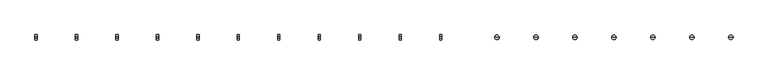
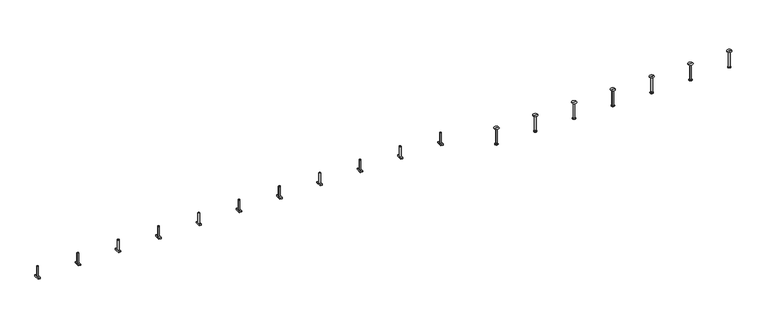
"""IFC4 building model written with IfcOpenShell, lengths in millimetres: fastener geometry, JTA-K JORDAHL® AnchorChannels : JTA-K L=6000 mm."""

from ifc_helpers import new_model, si_unit, frame, origin, place, context, project, spatial, polyline, circle_curve, source, transform, mapped, element, save
from ifc_brep_helpers import plane_surface, cylinder_surface, revolved_surface, advanced_brep


def fastener_e5844477(model_context):
    return source(origin(), model_context, "Body", "AdvancedBrep", [
        advanced_brep(
        [(3470.3421053, -20.7, -4.5), (3470.3421053, -20.7, -14.5), (3470.3421053, 20.7, -14.5), (3470.3421053, 20.7, -4.5), (3453.3421053, -20.7, -4.5), (3453.3421053, 20.7, -4.5), (3453.3421053, 20.7, -14.5), (3453.3421053, -20.7, -14.5), (3467.8421053, 0.0, -4.5), (3455.8421053, 0.0, -4.5), (3455.8421053, 0.0, 75.5), (3467.8421053, 0.0, 75.5)],
        [
            (0, 1),
            (1, 2),
            (2, 3),
            (3, 0),
            (4, 5),
            (5, 6),
            (6, 7),
            (7, 4),
            (3, 5),
            (4, 0),
            (8, 9, circle_curve(frame((3461.8421053, 0.0, -4.5), z_axis=(0.0, 0.0, -1.0), x_axis=(1.0, 0.0, 0.0)), 6.0)),
            (9, 8, circle_curve(frame((3461.8421053, 0.0, -4.5), z_axis=(0.0, 0.0, -1.0), x_axis=(1.0, 0.0, 0.0)), 6.0)),
            (2, 6),
            (1, 7),
            (10, 11, circle_curve(frame((3461.8421053, 0.0, 75.5), z_axis=(0.0, 0.0, 1.0), x_axis=(1.0, 0.0, 0.0)), 6.0)),
            (11, 10, circle_curve(frame((3461.8421053, 0.0, 75.5), z_axis=(0.0, 0.0, 1.0), x_axis=(1.0, 0.0, 0.0)), 6.0)),
            (11, 8),
            (9, 10),
        ],
        [
            plane_surface(frame((3470.3421053, 20.7, -4.5), z_axis=(1.0, 0.0, 0.0), x_axis=(0.0, 1.0, 0.0))),
            plane_surface(frame((3453.3421053, 20.7, -4.5), z_axis=(-1.0, 0.0, 0.0), x_axis=(0.0, -1.0, 0.0))),
            plane_surface(frame((3470.3421053, -20.7, -4.5), z_axis=(0.0, 0.0, 1.0), x_axis=(-1.0, 0.0, 0.0))),
            plane_surface(frame((3470.3421053, 20.7, -4.5), z_axis=(0.0, 1.0, 0.0), x_axis=(-1.0, 0.0, 0.0))),
            plane_surface(frame((3470.3421053, 20.7, -14.5), z_axis=(0.0, 0.0, -1.0), x_axis=(-1.0, 0.0, 0.0))),
            plane_surface(frame((3470.3421053, -20.7, -14.5), z_axis=(0.0, -1.0, 0.0), x_axis=(-1.0, 0.0, 0.0))),
            plane_surface(frame((3467.8421053, 0.0, 75.5), z_axis=(0.0, 0.0, 1.0), x_axis=(0.0, -1.0, 0.0))),
            cylinder_surface(frame((3461.8421053, 0.0, -4.5), z_axis=(0.0, 0.0, 1.0), x_axis=(1.0, 0.0, 0.0)), 6.0),
        ],
        [
            (0, [[1, 2, 3, 4]]),
            (1, [[5, 6, 7, 8]]),
            (2, [[9, -5, 10, -4], [11, 12]]),
            (3, [[13, -6, -9, -3]]),
            (4, [[14, -7, -13, -2]]),
            (5, [[-10, -8, -14, -1]]),
            (6, [[15, 16]]),
            (7, [[17, -12, 18, -16]]),
            (7, [[-18, -11, -17, -15]]),
        ],
    ),
        advanced_brep(
        [(3162.4473684, -20.7, -4.5), (3162.4473684, -20.7, -14.5), (3162.4473684, 20.7, -14.5), (3162.4473684, 20.7, -4.5), (3145.4473684, -20.7, -4.5), (3145.4473684, 20.7, -4.5), (3145.4473684, 20.7, -14.5), (3145.4473684, -20.7, -14.5), (3159.9473684, 0.0, -4.5), (3147.9473684, 0.0, -4.5), (3147.9473684, 0.0, 75.5), (3159.9473684, 0.0, 75.5)],
        [
            (0, 1),
            (1, 2),
            (2, 3),
            (3, 0),
            (4, 5),
            (5, 6),
            (6, 7),
            (7, 4),
            (3, 5),
            (4, 0),
            (8, 9, circle_curve(frame((3153.9473684, 0.0, -4.5), z_axis=(0.0, 0.0, -1.0), x_axis=(1.0, 0.0, 0.0)), 6.0)),
            (9, 8, circle_curve(frame((3153.9473684, 0.0, -4.5), z_axis=(0.0, 0.0, -1.0), x_axis=(1.0, 0.0, 0.0)), 6.0)),
            (2, 6),
            (1, 7),
            (10, 11, circle_curve(frame((3153.9473684, 0.0, 75.5), z_axis=(0.0, 0.0, 1.0), x_axis=(1.0, 0.0, 0.0)), 6.0)),
            (11, 10, circle_curve(frame((3153.9473684, 0.0, 75.5), z_axis=(0.0, 0.0, 1.0), x_axis=(1.0, 0.0, 0.0)), 6.0)),
            (11, 8),
            (9, 10),
        ],
        [
            plane_surface(frame((3162.4473684, 20.7, -4.5), z_axis=(1.0, 0.0, 0.0), x_axis=(0.0, 1.0, 0.0))),
            plane_surface(frame((3145.4473684, 20.7, -4.5), z_axis=(-1.0, 0.0, 0.0), x_axis=(0.0, -1.0, 0.0))),
            plane_surface(frame((3162.4473684, -20.7, -4.5), z_axis=(0.0, 0.0, 1.0), x_axis=(-1.0, 0.0, 0.0))),
            plane_surface(frame((3162.4473684, 20.7, -4.5), z_axis=(0.0, 1.0, 0.0), x_axis=(-1.0, 0.0, 0.0))),
            plane_surface(frame((3162.4473684, 20.7, -14.5), z_axis=(0.0, 0.0, -1.0), x_axis=(-1.0, 0.0, 0.0))),
            plane_surface(frame((3162.4473684, -20.7, -14.5), z_axis=(0.0, -1.0, 0.0), x_axis=(-1.0, 0.0, 0.0))),
            plane_surface(frame((3159.9473684, 0.0, 75.5), z_axis=(0.0, 0.0, 1.0), x_axis=(0.0, -1.0, 0.0))),
            cylinder_surface(frame((3153.9473684, 0.0, -4.5), z_axis=(0.0, 0.0, 1.0), x_axis=(1.0, 0.0, 0.0)), 6.0),
        ],
        [
            (0, [[1, 2, 3, 4]]),
            (1, [[5, 6, 7, 8]]),
            (2, [[9, -5, 10, -4], [11, 12]]),
            (3, [[13, -6, -9, -3]]),
            (4, [[14, -7, -13, -2]]),
            (5, [[-10, -8, -14, -1]]),
            (6, [[15, 16]]),
            (7, [[17, -12, 18, -16]]),
            (7, [[-18, -11, -17, -15]]),
        ],
    ),
        advanced_brep(
        [(2854.5526316, -20.7, -4.5), (2854.5526316, -20.7, -14.5), (2854.5526316, 20.7, -14.5), (2854.5526316, 20.7, -4.5), (2837.5526316, -20.7, -4.5), (2837.5526316, 20.7, -4.5), (2837.5526316, 20.7, -14.5), (2837.5526316, -20.7, -14.5), (2852.0526316, 0.0, -4.5), (2840.0526316, 0.0, -4.5), (2840.0526316, 0.0, 75.5), (2852.0526316, 0.0, 75.5)],
        [
            (0, 1),
            (1, 2),
            (2, 3),
            (3, 0),
            (4, 5),
            (5, 6),
            (6, 7),
            (7, 4),
            (3, 5),
            (4, 0),
            (8, 9, circle_curve(frame((2846.0526316, 0.0, -4.5), z_axis=(0.0, 0.0, -1.0), x_axis=(1.0, 0.0, 0.0)), 6.0)),
            (9, 8, circle_curve(frame((2846.0526316, 0.0, -4.5), z_axis=(0.0, 0.0, -1.0), x_axis=(1.0, 0.0, 0.0)), 6.0)),
            (2, 6),
            (1, 7),
            (10, 11, circle_curve(frame((2846.0526316, 0.0, 75.5), z_axis=(0.0, 0.0, 1.0), x_axis=(1.0, 0.0, 0.0)), 6.0)),
            (11, 10, circle_curve(frame((2846.0526316, 0.0, 75.5), z_axis=(0.0, 0.0, 1.0), x_axis=(1.0, 0.0, 0.0)), 6.0)),
            (11, 8),
            (9, 10),
        ],
        [
            plane_surface(frame((2854.5526316, 20.7, -4.5), z_axis=(1.0, 0.0, 0.0), x_axis=(0.0, 1.0, 0.0))),
            plane_surface(frame((2837.5526316, 20.7, -4.5), z_axis=(-1.0, 0.0, 0.0), x_axis=(0.0, -1.0, 0.0))),
            plane_surface(frame((2854.5526316, -20.7, -4.5), z_axis=(0.0, 0.0, 1.0), x_axis=(-1.0, 0.0, 0.0))),
            plane_surface(frame((2854.5526316, 20.7, -4.5), z_axis=(0.0, 1.0, 0.0), x_axis=(-1.0, 0.0, 0.0))),
            plane_surface(frame((2854.5526316, 20.7, -14.5), z_axis=(0.0, 0.0, -1.0), x_axis=(-1.0, 0.0, 0.0))),
            plane_surface(frame((2854.5526316, -20.7, -14.5), z_axis=(0.0, -1.0, 0.0), x_axis=(-1.0, 0.0, 0.0))),
            plane_surface(frame((2852.0526316, 0.0, 75.5), z_axis=(0.0, 0.0, 1.0), x_axis=(0.0, -1.0, 0.0))),
            cylinder_surface(frame((2846.0526316, 0.0, -4.5), z_axis=(0.0, 0.0, 1.0), x_axis=(1.0, 0.0, 0.0)), 6.0),
        ],
        [
            (0, [[1, 2, 3, 4]]),
            (1, [[5, 6, 7, 8]]),
            (2, [[9, -5, 10, -4], [11, 12]]),
            (3, [[13, -6, -9, -3]]),
            (4, [[14, -7, -13, -2]]),
            (5, [[-10, -8, -14, -1]]),
            (6, [[15, 16]]),
            (7, [[17, -12, 18, -16]]),
            (7, [[-18, -11, -17, -15]]),
        ],
    ),
        advanced_brep(
        [(2546.6578947, -20.7, -4.5), (2546.6578947, -20.7, -14.5), (2546.6578947, 20.7, -14.5), (2546.6578947, 20.7, -4.5), (2529.6578947, -20.7, -4.5), (2529.6578947, 20.7, -4.5), (2529.6578947, 20.7, -14.5), (2529.6578947, -20.7, -14.5), (2544.1578947, 0.0, -4.5), (2532.1578947, 0.0, -4.5), (2532.1578947, 0.0, 75.5), (2544.1578947, 0.0, 75.5)],
        [
            (0, 1),
            (1, 2),
            (2, 3),
            (3, 0),
            (4, 5),
            (5, 6),
            (6, 7),
            (7, 4),
            (3, 5),
            (4, 0),
            (8, 9, circle_curve(frame((2538.1578947, 0.0, -4.5), z_axis=(0.0, 0.0, -1.0), x_axis=(1.0, 0.0, 0.0)), 6.0)),
            (9, 8, circle_curve(frame((2538.1578947, 0.0, -4.5), z_axis=(0.0, 0.0, -1.0), x_axis=(1.0, 0.0, 0.0)), 6.0)),
            (2, 6),
            (1, 7),
            (10, 11, circle_curve(frame((2538.1578947, 0.0, 75.5), z_axis=(0.0, 0.0, 1.0), x_axis=(1.0, 0.0, 0.0)), 6.0)),
            (11, 10, circle_curve(frame((2538.1578947, 0.0, 75.5), z_axis=(0.0, 0.0, 1.0), x_axis=(1.0, 0.0, 0.0)), 6.0)),
            (11, 8),
            (9, 10),
        ],
        [
            plane_surface(frame((2546.6578947, 20.7, -4.5), z_axis=(1.0, 0.0, 0.0), x_axis=(0.0, 1.0, 0.0))),
            plane_surface(frame((2529.6578947, 20.7, -4.5), z_axis=(-1.0, 0.0, 0.0), x_axis=(0.0, -1.0, 0.0))),
            plane_surface(frame((2546.6578947, -20.7, -4.5), z_axis=(0.0, 0.0, 1.0), x_axis=(-1.0, 0.0, 0.0))),
            plane_surface(frame((2546.6578947, 20.7, -4.5), z_axis=(0.0, 1.0, 0.0), x_axis=(-1.0, 0.0, 0.0))),
            plane_surface(frame((2546.6578947, 20.7, -14.5), z_axis=(0.0, 0.0, -1.0), x_axis=(-1.0, 0.0, 0.0))),
            plane_surface(frame((2546.6578947, -20.7, -14.5), z_axis=(0.0, -1.0, 0.0), x_axis=(-1.0, 0.0, 0.0))),
            plane_surface(frame((2544.1578947, 0.0, 75.5), z_axis=(0.0, 0.0, 1.0), x_axis=(0.0, -1.0, 0.0))),
            cylinder_surface(frame((2538.1578947, 0.0, -4.5), z_axis=(0.0, 0.0, 1.0), x_axis=(1.0, 0.0, 0.0)), 6.0),
        ],
        [
            (0, [[1, 2, 3, 4]]),
            (1, [[5, 6, 7, 8]]),
            (2, [[9, -5, 10, -4], [11, 12]]),
            (3, [[13, -6, -9, -3]]),
            (4, [[14, -7, -13, -2]]),
            (5, [[-10, -8, -14, -1]]),
            (6, [[15, 16]]),
            (7, [[17, -12, 18, -16]]),
            (7, [[-18, -11, -17, -15]]),
        ],
    ),
        advanced_brep(
        [(2238.7631579, -20.7, -4.5), (2238.7631579, -20.7, -14.5), (2238.7631579, 20.7, -14.5), (2238.7631579, 20.7, -4.5), (2221.7631579, -20.7, -4.5), (2221.7631579, 20.7, -4.5), (2221.7631579, 20.7, -14.5), (2221.7631579, -20.7, -14.5), (2236.2631579, 0.0, -4.5), (2224.2631579, 0.0, -4.5), (2224.2631579, 0.0, 75.5), (2236.2631579, 0.0, 75.5)],
        [
            (0, 1),
            (1, 2),
            (2, 3),
            (3, 0),
            (4, 5),
            (5, 6),
            (6, 7),
            (7, 4),
            (3, 5),
            (4, 0),
            (8, 9, circle_curve(frame((2230.2631579, 0.0, -4.5), z_axis=(0.0, 0.0, -1.0), x_axis=(1.0, 0.0, 0.0)), 6.0)),
            (9, 8, circle_curve(frame((2230.2631579, 0.0, -4.5), z_axis=(0.0, 0.0, -1.0), x_axis=(1.0, 0.0, 0.0)), 6.0)),
            (2, 6),
            (1, 7),
            (10, 11, circle_curve(frame((2230.2631579, 0.0, 75.5), z_axis=(0.0, 0.0, 1.0), x_axis=(1.0, 0.0, 0.0)), 6.0)),
            (11, 10, circle_curve(frame((2230.2631579, 0.0, 75.5), z_axis=(0.0, 0.0, 1.0), x_axis=(1.0, 0.0, 0.0)), 6.0)),
            (11, 8),
            (9, 10),
        ],
        [
            plane_surface(frame((2238.7631579, 20.7, -4.5), z_axis=(1.0, 0.0, 0.0), x_axis=(0.0, 1.0, 0.0))),
            plane_surface(frame((2221.7631579, 20.7, -4.5), z_axis=(-1.0, 0.0, 0.0), x_axis=(0.0, -1.0, 0.0))),
            plane_surface(frame((2238.7631579, -20.7, -4.5), z_axis=(0.0, 0.0, 1.0), x_axis=(-1.0, 0.0, 0.0))),
            plane_surface(frame((2238.7631579, 20.7, -4.5), z_axis=(0.0, 1.0, 0.0), x_axis=(-1.0, 0.0, 0.0))),
            plane_surface(frame((2238.7631579, 20.7, -14.5), z_axis=(0.0, 0.0, -1.0), x_axis=(-1.0, 0.0, 0.0))),
            plane_surface(frame((2238.7631579, -20.7, -14.5), z_axis=(0.0, -1.0, 0.0), x_axis=(-1.0, 0.0, 0.0))),
            plane_surface(frame((2236.2631579, 0.0, 75.5), z_axis=(0.0, 0.0, 1.0), x_axis=(0.0, -1.0, 0.0))),
            cylinder_surface(frame((2230.2631579, 0.0, -4.5), z_axis=(0.0, 0.0, 1.0), x_axis=(1.0, 0.0, 0.0)), 6.0),
        ],
        [
            (0, [[1, 2, 3, 4]]),
            (1, [[5, 6, 7, 8]]),
            (2, [[9, -5, 10, -4], [11, 12]]),
            (3, [[13, -6, -9, -3]]),
            (4, [[14, -7, -13, -2]]),
            (5, [[-10, -8, -14, -1]]),
            (6, [[15, 16]]),
            (7, [[17, -12, 18, -16]]),
            (7, [[-18, -11, -17, -15]]),
        ],
    ),
        advanced_brep(
        [(1930.8684211, -20.7, -4.5), (1930.8684211, -20.7, -14.5), (1930.8684211, 20.7, -14.5), (1930.8684211, 20.7, -4.5), (1913.8684211, -20.7, -4.5), (1913.8684211, 20.7, -4.5), (1913.8684211, 20.7, -14.5), (1913.8684211, -20.7, -14.5), (1928.3684211, 0.0, -4.5), (1916.3684211, 0.0, -4.5), (1916.3684211, 0.0, 75.5), (1928.3684211, 0.0, 75.5)],
        [
            (0, 1),
            (1, 2),
            (2, 3),
            (3, 0),
            (4, 5),
            (5, 6),
            (6, 7),
            (7, 4),
            (3, 5),
            (4, 0),
            (8, 9, circle_curve(frame((1922.3684211, 0.0, -4.5), z_axis=(0.0, 0.0, -1.0), x_axis=(1.0, 0.0, 0.0)), 6.0)),
            (9, 8, circle_curve(frame((1922.3684211, 0.0, -4.5), z_axis=(0.0, 0.0, -1.0), x_axis=(1.0, 0.0, 0.0)), 6.0)),
            (2, 6),
            (1, 7),
            (10, 11, circle_curve(frame((1922.3684211, 0.0, 75.5), z_axis=(0.0, 0.0, 1.0), x_axis=(1.0, 0.0, 0.0)), 6.0)),
            (11, 10, circle_curve(frame((1922.3684211, 0.0, 75.5), z_axis=(0.0, 0.0, 1.0), x_axis=(1.0, 0.0, 0.0)), 6.0)),
            (11, 8),
            (9, 10),
        ],
        [
            plane_surface(frame((1930.8684211, 20.7, -4.5), z_axis=(1.0, 0.0, 0.0), x_axis=(0.0, 1.0, 0.0))),
            plane_surface(frame((1913.8684211, 20.7, -4.5), z_axis=(-1.0, 0.0, 0.0), x_axis=(0.0, -1.0, 0.0))),
            plane_surface(frame((1930.8684211, -20.7, -4.5), z_axis=(0.0, 0.0, 1.0), x_axis=(-1.0, 0.0, 0.0))),
            plane_surface(frame((1930.8684211, 20.7, -4.5), z_axis=(0.0, 1.0, 0.0), x_axis=(-1.0, 0.0, 0.0))),
            plane_surface(frame((1930.8684211, 20.7, -14.5), z_axis=(0.0, 0.0, -1.0), x_axis=(-1.0, 0.0, 0.0))),
            plane_surface(frame((1930.8684211, -20.7, -14.5), z_axis=(0.0, -1.0, 0.0), x_axis=(-1.0, 0.0, 0.0))),
            plane_surface(frame((1928.3684211, 0.0, 75.5), z_axis=(0.0, 0.0, 1.0), x_axis=(0.0, -1.0, 0.0))),
            cylinder_surface(frame((1922.3684211, 0.0, -4.5), z_axis=(0.0, 0.0, 1.0), x_axis=(1.0, 0.0, 0.0)), 6.0),
        ],
        [
            (0, [[1, 2, 3, 4]]),
            (1, [[5, 6, 7, 8]]),
            (2, [[9, -5, 10, -4], [11, 12]]),
            (3, [[13, -6, -9, -3]]),
            (4, [[14, -7, -13, -2]]),
            (5, [[-10, -8, -14, -1]]),
            (6, [[15, 16]]),
            (7, [[17, -12, 18, -16]]),
            (7, [[-18, -11, -17, -15]]),
        ],
    ),
        advanced_brep(
        [(1622.9736842, -20.7, -4.5), (1622.9736842, -20.7, -14.5), (1622.9736842, 20.7, -14.5), (1622.9736842, 20.7, -4.5), (1605.9736842, -20.7, -4.5), (1605.9736842, 20.7, -4.5), (1605.9736842, 20.7, -14.5), (1605.9736842, -20.7, -14.5), (1620.4736842, 0.0, -4.5), (1608.4736842, 0.0, -4.5), (1608.4736842, 0.0, 75.5), (1620.4736842, 0.0, 75.5)],
        [
            (0, 1),
            (1, 2),
            (2, 3),
            (3, 0),
            (4, 5),
            (5, 6),
            (6, 7),
            (7, 4),
            (3, 5),
            (4, 0),
            (8, 9, circle_curve(frame((1614.4736842, 0.0, -4.5), z_axis=(0.0, 0.0, -1.0), x_axis=(1.0, 0.0, 0.0)), 6.0)),
            (9, 8, circle_curve(frame((1614.4736842, 0.0, -4.5), z_axis=(0.0, 0.0, -1.0), x_axis=(1.0, 0.0, 0.0)), 6.0)),
            (2, 6),
            (1, 7),
            (10, 11, circle_curve(frame((1614.4736842, 0.0, 75.5), z_axis=(0.0, 0.0, 1.0), x_axis=(1.0, 0.0, 0.0)), 6.0)),
            (11, 10, circle_curve(frame((1614.4736842, 0.0, 75.5), z_axis=(0.0, 0.0, 1.0), x_axis=(1.0, 0.0, 0.0)), 6.0)),
            (11, 8),
            (9, 10),
        ],
        [
            plane_surface(frame((1622.9736842, 20.7, -4.5), z_axis=(1.0, 0.0, 0.0), x_axis=(0.0, 1.0, 0.0))),
            plane_surface(frame((1605.9736842, 20.7, -4.5), z_axis=(-1.0, 0.0, 0.0), x_axis=(0.0, -1.0, 0.0))),
            plane_surface(frame((1622.9736842, -20.7, -4.5), z_axis=(0.0, 0.0, 1.0), x_axis=(-1.0, 0.0, 0.0))),
            plane_surface(frame((1622.9736842, 20.7, -4.5), z_axis=(0.0, 1.0, 0.0), x_axis=(-1.0, 0.0, 0.0))),
            plane_surface(frame((1622.9736842, 20.7, -14.5), z_axis=(0.0, 0.0, -1.0), x_axis=(-1.0, 0.0, 0.0))),
            plane_surface(frame((1622.9736842, -20.7, -14.5), z_axis=(0.0, -1.0, 0.0), x_axis=(-1.0, 0.0, 0.0))),
            plane_surface(frame((1620.4736842, 0.0, 75.5), z_axis=(0.0, 0.0, 1.0), x_axis=(0.0, -1.0, 0.0))),
            cylinder_surface(frame((1614.4736842, 0.0, -4.5), z_axis=(0.0, 0.0, 1.0), x_axis=(1.0, 0.0, 0.0)), 6.0),
        ],
        [
            (0, [[1, 2, 3, 4]]),
            (1, [[5, 6, 7, 8]]),
            (2, [[9, -5, 10, -4], [11, 12]]),
            (3, [[13, -6, -9, -3]]),
            (4, [[14, -7, -13, -2]]),
            (5, [[-10, -8, -14, -1]]),
            (6, [[15, 16]]),
            (7, [[17, -12, 18, -16]]),
            (7, [[-18, -11, -17, -15]]),
        ],
    ),
        advanced_brep(
        [(1315.0789474, -20.7, -4.5), (1315.0789474, -20.7, -14.5), (1315.0789474, 20.7, -14.5), (1315.0789474, 20.7, -4.5), (1298.0789474, -20.7, -4.5), (1298.0789474, 20.7, -4.5), (1298.0789474, 20.7, -14.5), (1298.0789474, -20.7, -14.5), (1312.5789474, 0.0, -4.5), (1300.5789474, 0.0, -4.5), (1300.5789474, 0.0, 75.5), (1312.5789474, 0.0, 75.5)],
        [
            (0, 1),
            (1, 2),
            (2, 3),
            (3, 0),
            (4, 5),
            (5, 6),
            (6, 7),
            (7, 4),
            (3, 5),
            (4, 0),
            (8, 9, circle_curve(frame((1306.5789474, 0.0, -4.5), z_axis=(0.0, 0.0, -1.0), x_axis=(1.0, 0.0, 0.0)), 6.0)),
            (9, 8, circle_curve(frame((1306.5789474, 0.0, -4.5), z_axis=(0.0, 0.0, -1.0), x_axis=(1.0, 0.0, 0.0)), 6.0)),
            (2, 6),
            (1, 7),
            (10, 11, circle_curve(frame((1306.5789474, 0.0, 75.5), z_axis=(0.0, 0.0, 1.0), x_axis=(1.0, 0.0, 0.0)), 6.0)),
            (11, 10, circle_curve(frame((1306.5789474, 0.0, 75.5), z_axis=(0.0, 0.0, 1.0), x_axis=(1.0, 0.0, 0.0)), 6.0)),
            (11, 8),
            (9, 10),
        ],
        [
            plane_surface(frame((1315.0789474, 20.7, -4.5), z_axis=(1.0, 0.0, 0.0), x_axis=(0.0, 1.0, 0.0))),
            plane_surface(frame((1298.0789474, 20.7, -4.5), z_axis=(-1.0, 0.0, 0.0), x_axis=(0.0, -1.0, 0.0))),
            plane_surface(frame((1315.0789474, -20.7, -4.5), z_axis=(0.0, 0.0, 1.0), x_axis=(-1.0, 0.0, 0.0))),
            plane_surface(frame((1315.0789474, 20.7, -4.5), z_axis=(0.0, 1.0, 0.0), x_axis=(-1.0, 0.0, 0.0))),
            plane_surface(frame((1315.0789474, 20.7, -14.5), z_axis=(0.0, 0.0, -1.0), x_axis=(-1.0, 0.0, 0.0))),
            plane_surface(frame((1315.0789474, -20.7, -14.5), z_axis=(0.0, -1.0, 0.0), x_axis=(-1.0, 0.0, 0.0))),
            plane_surface(frame((1312.5789474, 0.0, 75.5), z_axis=(0.0, 0.0, 1.0), x_axis=(0.0, -1.0, 0.0))),
            cylinder_surface(frame((1306.5789474, 0.0, -4.5), z_axis=(0.0, 0.0, 1.0), x_axis=(1.0, 0.0, 0.0)), 6.0),
        ],
        [
            (0, [[1, 2, 3, 4]]),
            (1, [[5, 6, 7, 8]]),
            (2, [[9, -5, 10, -4], [11, 12]]),
            (3, [[13, -6, -9, -3]]),
            (4, [[14, -7, -13, -2]]),
            (5, [[-10, -8, -14, -1]]),
            (6, [[15, 16]]),
            (7, [[17, -12, 18, -16]]),
            (7, [[-18, -11, -17, -15]]),
        ],
    ),
        advanced_brep(
        [(1007.1842105, -20.7, -4.5), (1007.1842105, -20.7, -14.5), (1007.1842105, 20.7, -14.5), (1007.1842105, 20.7, -4.5), (990.1842105, -20.7, -4.5), (990.1842105, 20.7, -4.5), (990.1842105, 20.7, -14.5), (990.1842105, -20.7, -14.5), (1004.6842105, 0.0, -4.5), (992.6842105, 0.0, -4.5), (992.6842105, 0.0, 75.5), (1004.6842105, 0.0, 75.5)],
        [
            (0, 1),
            (1, 2),
            (2, 3),
            (3, 0),
            (4, 5),
            (5, 6),
            (6, 7),
            (7, 4),
            (3, 5),
            (4, 0),
            (8, 9, circle_curve(frame((998.6842105, 0.0, -4.5), z_axis=(0.0, 0.0, -1.0), x_axis=(1.0, 0.0, 0.0)), 6.0)),
            (9, 8, circle_curve(frame((998.6842105, 0.0, -4.5), z_axis=(0.0, 0.0, -1.0), x_axis=(1.0, 0.0, 0.0)), 6.0)),
            (2, 6),
            (1, 7),
            (10, 11, circle_curve(frame((998.6842105, 0.0, 75.5), z_axis=(0.0, 0.0, 1.0), x_axis=(1.0, 0.0, 0.0)), 6.0)),
            (11, 10, circle_curve(frame((998.6842105, 0.0, 75.5), z_axis=(0.0, 0.0, 1.0), x_axis=(1.0, 0.0, 0.0)), 6.0)),
            (11, 8),
            (9, 10),
        ],
        [
            plane_surface(frame((1007.1842105, 20.7, -4.5), z_axis=(1.0, 0.0, 0.0), x_axis=(0.0, 1.0, 0.0))),
            plane_surface(frame((990.1842105, 20.7, -4.5), z_axis=(-1.0, 0.0, 0.0), x_axis=(0.0, -1.0, 0.0))),
            plane_surface(frame((1007.1842105, -20.7, -4.5), z_axis=(0.0, 0.0, 1.0), x_axis=(-1.0, 0.0, 0.0))),
            plane_surface(frame((1007.1842105, 20.7, -4.5), z_axis=(0.0, 1.0, 0.0), x_axis=(-1.0, 0.0, 0.0))),
            plane_surface(frame((1007.1842105, 20.7, -14.5), z_axis=(0.0, 0.0, -1.0), x_axis=(-1.0, 0.0, 0.0))),
            plane_surface(frame((1007.1842105, -20.7, -14.5), z_axis=(0.0, -1.0, 0.0), x_axis=(-1.0, 0.0, 0.0))),
            plane_surface(frame((1004.6842105, 0.0, 75.5), z_axis=(0.0, 0.0, 1.0), x_axis=(0.0, -1.0, 0.0))),
            cylinder_surface(frame((998.6842105, 0.0, -4.5), z_axis=(0.0, 0.0, 1.0), x_axis=(1.0, 0.0, 0.0)), 6.0),
        ],
        [
            (0, [[1, 2, 3, 4]]),
            (1, [[5, 6, 7, 8]]),
            (2, [[9, -5, 10, -4], [11, 12]]),
            (3, [[13, -6, -9, -3]]),
            (4, [[14, -7, -13, -2]]),
            (5, [[-10, -8, -14, -1]]),
            (6, [[15, 16]]),
            (7, [[17, -12, 18, -16]]),
            (7, [[-18, -11, -17, -15]]),
        ],
    ),
        advanced_brep(
        [(699.2894737, -20.7, -4.5), (699.2894737, -20.7, -14.5), (699.2894737, 20.7, -14.5), (699.2894737, 20.7, -4.5), (682.2894737, -20.7, -4.5), (682.2894737, 20.7, -4.5), (682.2894737, 20.7, -14.5), (682.2894737, -20.7, -14.5), (696.7894737, 0.0, -4.5), (684.7894737, 0.0, -4.5), (684.7894737, 0.0, 75.5), (696.7894737, 0.0, 75.5)],
        [
            (0, 1),
            (1, 2),
            (2, 3),
            (3, 0),
            (4, 5),
            (5, 6),
            (6, 7),
            (7, 4),
            (3, 5),
            (4, 0),
            (8, 9, circle_curve(frame((690.7894737, 0.0, -4.5), z_axis=(0.0, 0.0, -1.0), x_axis=(1.0, 0.0, 0.0)), 6.0)),
            (9, 8, circle_curve(frame((690.7894737, 0.0, -4.5), z_axis=(0.0, 0.0, -1.0), x_axis=(1.0, 0.0, 0.0)), 6.0)),
            (2, 6),
            (1, 7),
            (10, 11, circle_curve(frame((690.7894737, 0.0, 75.5), z_axis=(0.0, 0.0, 1.0), x_axis=(1.0, 0.0, 0.0)), 6.0)),
            (11, 10, circle_curve(frame((690.7894737, 0.0, 75.5), z_axis=(0.0, 0.0, 1.0), x_axis=(1.0, 0.0, 0.0)), 6.0)),
            (11, 8),
            (9, 10),
        ],
        [
            plane_surface(frame((699.2894737, 20.7, -4.5), z_axis=(1.0, 0.0, 0.0), x_axis=(0.0, 1.0, 0.0))),
            plane_surface(frame((682.2894737, 20.7, -4.5), z_axis=(-1.0, 0.0, 0.0), x_axis=(0.0, -1.0, 0.0))),
            plane_surface(frame((699.2894737, -20.7, -4.5), z_axis=(0.0, 0.0, 1.0), x_axis=(-1.0, 0.0, 0.0))),
            plane_surface(frame((699.2894737, 20.7, -4.5), z_axis=(0.0, 1.0, 0.0), x_axis=(-1.0, 0.0, 0.0))),
            plane_surface(frame((699.2894737, 20.7, -14.5), z_axis=(0.0, 0.0, -1.0), x_axis=(-1.0, 0.0, 0.0))),
            plane_surface(frame((699.2894737, -20.7, -14.5), z_axis=(0.0, -1.0, 0.0), x_axis=(-1.0, 0.0, 0.0))),
            plane_surface(frame((696.7894737, 0.0, 75.5), z_axis=(0.0, 0.0, 1.0), x_axis=(0.0, -1.0, 0.0))),
            cylinder_surface(frame((690.7894737, 0.0, -4.5), z_axis=(0.0, 0.0, 1.0), x_axis=(1.0, 0.0, 0.0)), 6.0),
        ],
        [
            (0, [[1, 2, 3, 4]]),
            (1, [[5, 6, 7, 8]]),
            (2, [[9, -5, 10, -4], [11, 12]]),
            (3, [[13, -6, -9, -3]]),
            (4, [[14, -7, -13, -2]]),
            (5, [[-10, -8, -14, -1]]),
            (6, [[15, 16]]),
            (7, [[17, -12, 18, -16]]),
            (7, [[-18, -11, -17, -15]]),
        ],
    ),
        advanced_brep(
        [(391.3947368, -20.7, -4.5), (391.3947368, -20.7, -14.5), (391.3947368, 20.7, -14.5), (391.3947368, 20.7, -4.5), (374.3947368, -20.7, -4.5), (374.3947368, 20.7, -4.5), (374.3947368, 20.7, -14.5), (374.3947368, -20.7, -14.5), (388.8947368, 0.0, -4.5), (376.8947368, 0.0, -4.5), (376.8947368, 0.0, 75.5), (388.8947368, 0.0, 75.5)],
        [
            (0, 1),
            (1, 2),
            (2, 3),
            (3, 0),
            (4, 5),
            (5, 6),
            (6, 7),
            (7, 4),
            (3, 5),
            (4, 0),
            (8, 9, circle_curve(frame((382.8947368, 0.0, -4.5), z_axis=(0.0, 0.0, -1.0), x_axis=(1.0, 0.0, 0.0)), 6.0)),
            (9, 8, circle_curve(frame((382.8947368, 0.0, -4.5), z_axis=(0.0, 0.0, -1.0), x_axis=(1.0, 0.0, 0.0)), 6.0)),
            (2, 6),
            (1, 7),
            (10, 11, circle_curve(frame((382.8947368, 0.0, 75.5), z_axis=(0.0, 0.0, 1.0), x_axis=(1.0, 0.0, 0.0)), 6.0)),
            (11, 10, circle_curve(frame((382.8947368, 0.0, 75.5), z_axis=(0.0, 0.0, 1.0), x_axis=(1.0, 0.0, 0.0)), 6.0)),
            (11, 8),
            (9, 10),
        ],
        [
            plane_surface(frame((391.3947368, 20.7, -4.5), z_axis=(1.0, 0.0, 0.0), x_axis=(0.0, 1.0, 0.0))),
            plane_surface(frame((374.3947368, 20.7, -4.5), z_axis=(-1.0, 0.0, 0.0), x_axis=(0.0, -1.0, 0.0))),
            plane_surface(frame((391.3947368, -20.7, -4.5), z_axis=(0.0, 0.0, 1.0), x_axis=(-1.0, 0.0, 0.0))),
            plane_surface(frame((391.3947368, 20.7, -4.5), z_axis=(0.0, 1.0, 0.0), x_axis=(-1.0, 0.0, 0.0))),
            plane_surface(frame((391.3947368, 20.7, -14.5), z_axis=(0.0, 0.0, -1.0), x_axis=(-1.0, 0.0, 0.0))),
            plane_surface(frame((391.3947368, -20.7, -14.5), z_axis=(0.0, -1.0, 0.0), x_axis=(-1.0, 0.0, 0.0))),
            plane_surface(frame((388.8947368, 0.0, 75.5), z_axis=(0.0, 0.0, 1.0), x_axis=(0.0, -1.0, 0.0))),
            cylinder_surface(frame((382.8947368, 0.0, -4.5), z_axis=(0.0, 0.0, 1.0), x_axis=(1.0, 0.0, 0.0)), 6.0),
        ],
        [
            (0, [[1, 2, 3, 4]]),
            (1, [[5, 6, 7, 8]]),
            (2, [[9, -5, 10, -4], [11, 12]]),
            (3, [[13, -6, -9, -3]]),
            (4, [[14, -7, -13, -2]]),
            (5, [[-10, -8, -14, -1]]),
            (6, [[15, 16]]),
            (7, [[17, -12, 18, -16]]),
            (7, [[-18, -11, -17, -15]]),
        ],
    ),
        advanced_brep(
        [(5668.5, 0.0, -34.0), (5651.0, 0.0, -34.0), (5686.0, 0.0, -34.0), (5657.0, 0.0, -165.0), (5668.5, 0.0, -165.0), (5680.0, 0.0, -165.0), (5657.0, 0.0, -163.0), (5680.0, 0.0, -163.0), (5662.7, 0.0, -159.7091035), (5674.3, 0.0, -159.7091035), (5662.7, 0.0, -37.0), (5674.3, 0.0, -37.0)],
        [
            (0, 1),
            (1, 2, circle_curve(frame((5668.5, 0.0, -34.0), z_axis=(0.0, 0.0, 1.0), x_axis=(1.0, 0.0, 0.0)), 17.5)),
            (2, 0),
            (2, 1, circle_curve(frame((5668.5, 0.0, -34.0), z_axis=(0.0, 0.0, 1.0), x_axis=(1.0, 0.0, 0.0)), 17.5)),
            (3, 4),
            (4, 5),
            (5, 3, circle_curve(frame((5668.5, 0.0, -165.0), z_axis=(0.0, 0.0, -1.0), x_axis=(1.0, 0.0, 0.0)), 11.5)),
            (3, 5, circle_curve(frame((5668.5, 0.0, -165.0), z_axis=(0.0, 0.0, -1.0), x_axis=(1.0, 0.0, 0.0)), 11.5)),
            (6, 3),
            (5, 7),
            (7, 6, circle_curve(frame((5668.5, 0.0, -163.0), z_axis=(0.0, 0.0, -1.0), x_axis=(1.0, 0.0, 0.0)), 11.5)),
            (6, 7, circle_curve(frame((5668.5, 0.0, -163.0), z_axis=(0.0, 0.0, -1.0), x_axis=(1.0, 0.0, 0.0)), 11.5)),
            (8, 6),
            (7, 9),
            (9, 8, circle_curve(frame((5668.5, 0.0, -159.7091035), z_axis=(0.0, 0.0, -1.0), x_axis=(1.0, 0.0, 0.0)), 5.8)),
            (8, 9, circle_curve(frame((5668.5, 0.0, -159.7091035), z_axis=(0.0, 0.0, -1.0), x_axis=(1.0, 0.0, 0.0)), 5.8)),
            (10, 8),
            (9, 11),
            (11, 10, circle_curve(frame((5668.5, 0.0, -37.0), z_axis=(0.0, 0.0, -1.0), x_axis=(1.0, 0.0, 0.0)), 5.8)),
            (10, 11, circle_curve(frame((5668.5, 0.0, -37.0), z_axis=(0.0, 0.0, -1.0), x_axis=(1.0, 0.0, 0.0)), 5.8)),
            (1, 10),
            (11, 2),
        ],
        [
            plane_surface(frame((5668.5, 0.0, -34.0), z_axis=(0.0, 0.0, 1.0), x_axis=(1.0, 0.0, 0.0))),
            plane_surface(frame((5668.5, 0.0, -165.0), z_axis=(0.0, 0.0, -1.0), x_axis=(1.0, 0.0, 0.0))),
            cylinder_surface(frame((5668.5, 0.0, 2345.3150031), z_axis=(0.0, 0.0, 1.0), x_axis=(1.0, 0.0, 0.0)), 11.5),
            revolved_surface(polyline([(5680.0, 0.0, -163.0), (5674.3, 0.0, -159.7091035)]), (5668.5, 0.0, 2345.3150031), (0.0, 0.0, 1.0)),
            cylinder_surface(frame((5668.5, 0.0, 2345.3150031), z_axis=(0.0, 0.0, 1.0), x_axis=(1.0, 0.0, 0.0)), 5.8),
            revolved_surface(polyline([(5674.3, 0.0, -37.0), (5686.0, 0.0, -34.0)]), (5668.5, 0.0, 2345.3150031), (0.0, 0.0, 1.0)),
        ],
        [
            (0, [[1, 2, 3]]),
            (0, [[-3, 4, -1]]),
            (1, [[5, 6, 7]]),
            (1, [[-6, -5, 8]]),
            (2, [[9, -7, 10, 11]]),
            (2, [[-10, -8, -9, 12]]),
            (3, [[13, -11, 14, 15]]),
            (3, [[-14, -12, -13, 16]]),
            (4, [[17, -15, 18, 19]]),
            (4, [[-18, -16, -17, 20]]),
            (5, [[21, -19, 22, -2]]),
            (5, [[-22, -20, -21, -4]]),
        ],
    ),
        advanced_brep(
        [(5372.0, 0.0, -34.0), (5354.5, 0.0, -34.0), (5389.5, 0.0, -34.0), (5360.5, 0.0, -165.0), (5372.0, 0.0, -165.0), (5383.5, 0.0, -165.0), (5360.5, 0.0, -163.0), (5383.5, 0.0, -163.0), (5366.2, 0.0, -159.7091035), (5377.8, 0.0, -159.7091035), (5366.2, 0.0, -37.0), (5377.8, 0.0, -37.0)],
        [
            (0, 1),
            (1, 2, circle_curve(frame((5372.0, 0.0, -34.0), z_axis=(0.0, 0.0, 1.0), x_axis=(1.0, 0.0, 0.0)), 17.5)),
            (2, 0),
            (2, 1, circle_curve(frame((5372.0, 0.0, -34.0), z_axis=(0.0, 0.0, 1.0), x_axis=(1.0, 0.0, 0.0)), 17.5)),
            (3, 4),
            (4, 5),
            (5, 3, circle_curve(frame((5372.0, 0.0, -165.0), z_axis=(0.0, 0.0, -1.0), x_axis=(1.0, 0.0, 0.0)), 11.5)),
            (3, 5, circle_curve(frame((5372.0, 0.0, -165.0), z_axis=(0.0, 0.0, -1.0), x_axis=(1.0, 0.0, 0.0)), 11.5)),
            (6, 3),
            (5, 7),
            (7, 6, circle_curve(frame((5372.0, 0.0, -163.0), z_axis=(0.0, 0.0, -1.0), x_axis=(1.0, 0.0, 0.0)), 11.5)),
            (6, 7, circle_curve(frame((5372.0, 0.0, -163.0), z_axis=(0.0, 0.0, -1.0), x_axis=(1.0, 0.0, 0.0)), 11.5)),
            (8, 6),
            (7, 9),
            (9, 8, circle_curve(frame((5372.0, 0.0, -159.7091035), z_axis=(0.0, 0.0, -1.0), x_axis=(1.0, 0.0, 0.0)), 5.8)),
            (8, 9, circle_curve(frame((5372.0, 0.0, -159.7091035), z_axis=(0.0, 0.0, -1.0), x_axis=(1.0, 0.0, 0.0)), 5.8)),
            (10, 8),
            (9, 11),
            (11, 10, circle_curve(frame((5372.0, 0.0, -37.0), z_axis=(0.0, 0.0, -1.0), x_axis=(1.0, 0.0, 0.0)), 5.8)),
            (10, 11, circle_curve(frame((5372.0, 0.0, -37.0), z_axis=(0.0, 0.0, -1.0), x_axis=(1.0, 0.0, 0.0)), 5.8)),
            (1, 10),
            (11, 2),
        ],
        [
            plane_surface(frame((5372.0, 0.0, -34.0), z_axis=(0.0, 0.0, 1.0), x_axis=(1.0, 0.0, 0.0))),
            plane_surface(frame((5372.0, 0.0, -165.0), z_axis=(0.0, 0.0, -1.0), x_axis=(1.0, 0.0, 0.0))),
            cylinder_surface(frame((5372.0, 0.0, 2345.3150031), z_axis=(0.0, 0.0, 1.0), x_axis=(1.0, 0.0, 0.0)), 11.5),
            revolved_surface(polyline([(5383.5, 0.0, -163.0), (5377.8, 0.0, -159.7091035)]), (5372.0, 0.0, 2345.3150031), (0.0, 0.0, 1.0)),
            cylinder_surface(frame((5372.0, 0.0, 2345.3150031), z_axis=(0.0, 0.0, 1.0), x_axis=(1.0, 0.0, 0.0)), 5.8),
            revolved_surface(polyline([(5377.8, 0.0, -37.0), (5389.5, 0.0, -34.0)]), (5372.0, 0.0, 2345.3150031), (0.0, 0.0, 1.0)),
        ],
        [
            (0, [[1, 2, 3]]),
            (0, [[-3, 4, -1]]),
            (1, [[5, 6, 7]]),
            (1, [[-6, -5, 8]]),
            (2, [[9, -7, 10, 11]]),
            (2, [[-10, -8, -9, 12]]),
            (3, [[13, -11, 14, 15]]),
            (3, [[-14, -12, -13, 16]]),
            (4, [[17, -15, 18, 19]]),
            (4, [[-18, -16, -17, 20]]),
            (5, [[21, -19, 22, -2]]),
            (5, [[-22, -20, -21, -4]]),
        ],
    ),
        advanced_brep(
        [(5075.5, 0.0, -34.0), (5058.0, 0.0, -34.0), (5093.0, 0.0, -34.0), (5064.0, 0.0, -165.0), (5075.5, 0.0, -165.0), (5087.0, 0.0, -165.0), (5064.0, 0.0, -163.0), (5087.0, 0.0, -163.0), (5069.7, 0.0, -159.7091035), (5081.3, 0.0, -159.7091035), (5069.7, 0.0, -37.0), (5081.3, 0.0, -37.0)],
        [
            (0, 1),
            (1, 2, circle_curve(frame((5075.5, 0.0, -34.0), z_axis=(0.0, 0.0, 1.0), x_axis=(1.0, 0.0, 0.0)), 17.5)),
            (2, 0),
            (2, 1, circle_curve(frame((5075.5, 0.0, -34.0), z_axis=(0.0, 0.0, 1.0), x_axis=(1.0, 0.0, 0.0)), 17.5)),
            (3, 4),
            (4, 5),
            (5, 3, circle_curve(frame((5075.5, 0.0, -165.0), z_axis=(0.0, 0.0, -1.0), x_axis=(1.0, 0.0, 0.0)), 11.5)),
            (3, 5, circle_curve(frame((5075.5, 0.0, -165.0), z_axis=(0.0, 0.0, -1.0), x_axis=(1.0, 0.0, 0.0)), 11.5)),
            (6, 3),
            (5, 7),
            (7, 6, circle_curve(frame((5075.5, 0.0, -163.0), z_axis=(0.0, 0.0, -1.0), x_axis=(1.0, 0.0, 0.0)), 11.5)),
            (6, 7, circle_curve(frame((5075.5, 0.0, -163.0), z_axis=(0.0, 0.0, -1.0), x_axis=(1.0, 0.0, 0.0)), 11.5)),
            (8, 6),
            (7, 9),
            (9, 8, circle_curve(frame((5075.5, 0.0, -159.7091035), z_axis=(0.0, 0.0, -1.0), x_axis=(1.0, 0.0, 0.0)), 5.8)),
            (8, 9, circle_curve(frame((5075.5, 0.0, -159.7091035), z_axis=(0.0, 0.0, -1.0), x_axis=(1.0, 0.0, 0.0)), 5.8)),
            (10, 8),
            (9, 11),
            (11, 10, circle_curve(frame((5075.5, 0.0, -37.0), z_axis=(0.0, 0.0, -1.0), x_axis=(1.0, 0.0, 0.0)), 5.8)),
            (10, 11, circle_curve(frame((5075.5, 0.0, -37.0), z_axis=(0.0, 0.0, -1.0), x_axis=(1.0, 0.0, 0.0)), 5.8)),
            (1, 10),
            (11, 2),
        ],
        [
            plane_surface(frame((5075.5, 0.0, -34.0), z_axis=(0.0, 0.0, 1.0), x_axis=(1.0, 0.0, 0.0))),
            plane_surface(frame((5075.5, 0.0, -165.0), z_axis=(0.0, 0.0, -1.0), x_axis=(1.0, 0.0, 0.0))),
            cylinder_surface(frame((5075.5, 0.0, 2345.3150031), z_axis=(0.0, 0.0, 1.0), x_axis=(1.0, 0.0, 0.0)), 11.5),
            revolved_surface(polyline([(5087.0, 0.0, -163.0), (5081.3, 0.0, -159.7091035)]), (5075.5, 0.0, 2345.3150031), (0.0, 0.0, 1.0)),
            cylinder_surface(frame((5075.5, 0.0, 2345.3150031), z_axis=(0.0, 0.0, 1.0), x_axis=(1.0, 0.0, 0.0)), 5.8),
            revolved_surface(polyline([(5081.3, 0.0, -37.0), (5093.0, 0.0, -34.0)]), (5075.5, 0.0, 2345.3150031), (0.0, 0.0, 1.0)),
        ],
        [
            (0, [[1, 2, 3]]),
            (0, [[-3, 4, -1]]),
            (1, [[5, 6, 7]]),
            (1, [[-6, -5, 8]]),
            (2, [[9, -7, 10, 11]]),
            (2, [[-10, -8, -9, 12]]),
            (3, [[13, -11, 14, 15]]),
            (3, [[-14, -12, -13, 16]]),
            (4, [[17, -15, 18, 19]]),
            (4, [[-18, -16, -17, 20]]),
            (5, [[21, -19, 22, -2]]),
            (5, [[-22, -20, -21, -4]]),
        ],
    ),
        advanced_brep(
        [(4779.0, 0.0, -34.0), (4761.5, 0.0, -34.0), (4796.5, 0.0, -34.0), (4767.5, 0.0, -165.0), (4779.0, 0.0, -165.0), (4790.5, 0.0, -165.0), (4767.5, 0.0, -163.0), (4790.5, 0.0, -163.0), (4773.2, 0.0, -159.7091035), (4784.8, 0.0, -159.7091035), (4773.2, 0.0, -37.0), (4784.8, 0.0, -37.0)],
        [
            (0, 1),
            (1, 2, circle_curve(frame((4779.0, 0.0, -34.0), z_axis=(0.0, 0.0, 1.0), x_axis=(1.0, 0.0, 0.0)), 17.5)),
            (2, 0),
            (2, 1, circle_curve(frame((4779.0, 0.0, -34.0), z_axis=(0.0, 0.0, 1.0), x_axis=(1.0, 0.0, 0.0)), 17.5)),
            (3, 4),
            (4, 5),
            (5, 3, circle_curve(frame((4779.0, 0.0, -165.0), z_axis=(0.0, 0.0, -1.0), x_axis=(1.0, 0.0, 0.0)), 11.5)),
            (3, 5, circle_curve(frame((4779.0, 0.0, -165.0), z_axis=(0.0, 0.0, -1.0), x_axis=(1.0, 0.0, 0.0)), 11.5)),
            (6, 3),
            (5, 7),
            (7, 6, circle_curve(frame((4779.0, 0.0, -163.0), z_axis=(0.0, 0.0, -1.0), x_axis=(1.0, 0.0, 0.0)), 11.5)),
            (6, 7, circle_curve(frame((4779.0, 0.0, -163.0), z_axis=(0.0, 0.0, -1.0), x_axis=(1.0, 0.0, 0.0)), 11.5)),
            (8, 6),
            (7, 9),
            (9, 8, circle_curve(frame((4779.0, 0.0, -159.7091035), z_axis=(0.0, 0.0, -1.0), x_axis=(1.0, 0.0, 0.0)), 5.8)),
            (8, 9, circle_curve(frame((4779.0, 0.0, -159.7091035), z_axis=(0.0, 0.0, -1.0), x_axis=(1.0, 0.0, 0.0)), 5.8)),
            (10, 8),
            (9, 11),
            (11, 10, circle_curve(frame((4779.0, 0.0, -37.0), z_axis=(0.0, 0.0, -1.0), x_axis=(1.0, 0.0, 0.0)), 5.8)),
            (10, 11, circle_curve(frame((4779.0, 0.0, -37.0), z_axis=(0.0, 0.0, -1.0), x_axis=(1.0, 0.0, 0.0)), 5.8)),
            (1, 10),
            (11, 2),
        ],
        [
            plane_surface(frame((4779.0, 0.0, -34.0), z_axis=(0.0, 0.0, 1.0), x_axis=(1.0, 0.0, 0.0))),
            plane_surface(frame((4779.0, 0.0, -165.0), z_axis=(0.0, 0.0, -1.0), x_axis=(1.0, 0.0, 0.0))),
            cylinder_surface(frame((4779.0, 0.0, 2345.3150031), z_axis=(0.0, 0.0, 1.0), x_axis=(1.0, 0.0, 0.0)), 11.5),
            revolved_surface(polyline([(4790.5, 0.0, -163.0), (4784.8, 0.0, -159.7091035)]), (4779.0, 0.0, 2345.3150031), (0.0, 0.0, 1.0)),
            cylinder_surface(frame((4779.0, 0.0, 2345.3150031), z_axis=(0.0, 0.0, 1.0), x_axis=(1.0, 0.0, 0.0)), 5.8),
            revolved_surface(polyline([(4784.8, 0.0, -37.0), (4796.5, 0.0, -34.0)]), (4779.0, 0.0, 2345.3150031), (0.0, 0.0, 1.0)),
        ],
        [
            (0, [[1, 2, 3]]),
            (0, [[-3, 4, -1]]),
            (1, [[5, 6, 7]]),
            (1, [[-6, -5, 8]]),
            (2, [[9, -7, 10, 11]]),
            (2, [[-10, -8, -9, 12]]),
            (3, [[13, -11, 14, 15]]),
            (3, [[-14, -12, -13, 16]]),
            (4, [[17, -15, 18, 19]]),
            (4, [[-18, -16, -17, 20]]),
            (5, [[21, -19, 22, -2]]),
            (5, [[-22, -20, -21, -4]]),
        ],
    ),
        advanced_brep(
        [(4482.5, 0.0, -34.0), (4465.0, 0.0, -34.0), (4500.0, 0.0, -34.0), (4471.0, 0.0, -165.0), (4482.5, 0.0, -165.0), (4494.0, 0.0, -165.0), (4471.0, 0.0, -163.0), (4494.0, 0.0, -163.0), (4476.7, 0.0, -159.7091035), (4488.3, 0.0, -159.7091035), (4476.7, 0.0, -37.0), (4488.3, 0.0, -37.0)],
        [
            (0, 1),
            (1, 2, circle_curve(frame((4482.5, 0.0, -34.0), z_axis=(0.0, 0.0, 1.0), x_axis=(1.0, 0.0, 0.0)), 17.5)),
            (2, 0),
            (2, 1, circle_curve(frame((4482.5, 0.0, -34.0), z_axis=(0.0, 0.0, 1.0), x_axis=(1.0, 0.0, 0.0)), 17.5)),
            (3, 4),
            (4, 5),
            (5, 3, circle_curve(frame((4482.5, 0.0, -165.0), z_axis=(0.0, 0.0, -1.0), x_axis=(1.0, 0.0, 0.0)), 11.5)),
            (3, 5, circle_curve(frame((4482.5, 0.0, -165.0), z_axis=(0.0, 0.0, -1.0), x_axis=(1.0, 0.0, 0.0)), 11.5)),
            (6, 3),
            (5, 7),
            (7, 6, circle_curve(frame((4482.5, 0.0, -163.0), z_axis=(0.0, 0.0, -1.0), x_axis=(1.0, 0.0, 0.0)), 11.5)),
            (6, 7, circle_curve(frame((4482.5, 0.0, -163.0), z_axis=(0.0, 0.0, -1.0), x_axis=(1.0, 0.0, 0.0)), 11.5)),
            (8, 6),
            (7, 9),
            (9, 8, circle_curve(frame((4482.5, 0.0, -159.7091035), z_axis=(0.0, 0.0, -1.0), x_axis=(1.0, 0.0, 0.0)), 5.8)),
            (8, 9, circle_curve(frame((4482.5, 0.0, -159.7091035), z_axis=(0.0, 0.0, -1.0), x_axis=(1.0, 0.0, 0.0)), 5.8)),
            (10, 8),
            (9, 11),
            (11, 10, circle_curve(frame((4482.5, 0.0, -37.0), z_axis=(0.0, 0.0, -1.0), x_axis=(1.0, 0.0, 0.0)), 5.8)),
            (10, 11, circle_curve(frame((4482.5, 0.0, -37.0), z_axis=(0.0, 0.0, -1.0), x_axis=(1.0, 0.0, 0.0)), 5.8)),
            (1, 10),
            (11, 2),
        ],
        [
            plane_surface(frame((4482.5, 0.0, -34.0), z_axis=(0.0, 0.0, 1.0), x_axis=(1.0, 0.0, 0.0))),
            plane_surface(frame((4482.5, 0.0, -165.0), z_axis=(0.0, 0.0, -1.0), x_axis=(1.0, 0.0, 0.0))),
            cylinder_surface(frame((4482.5, 0.0, 2345.3150031), z_axis=(0.0, 0.0, 1.0), x_axis=(1.0, 0.0, 0.0)), 11.5),
            revolved_surface(polyline([(4494.0, 0.0, -163.0), (4488.3, 0.0, -159.7091035)]), (4482.5, 0.0, 2345.3150031), (0.0, 0.0, 1.0)),
            cylinder_surface(frame((4482.5, 0.0, 2345.3150031), z_axis=(0.0, 0.0, 1.0), x_axis=(1.0, 0.0, 0.0)), 5.8),
            revolved_surface(polyline([(4488.3, 0.0, -37.0), (4500.0, 0.0, -34.0)]), (4482.5, 0.0, 2345.3150031), (0.0, 0.0, 1.0)),
        ],
        [
            (0, [[1, 2, 3]]),
            (0, [[-3, 4, -1]]),
            (1, [[5, 6, 7]]),
            (1, [[-6, -5, 8]]),
            (2, [[9, -7, 10, 11]]),
            (2, [[-10, -8, -9, 12]]),
            (3, [[13, -11, 14, 15]]),
            (3, [[-14, -12, -13, 16]]),
            (4, [[17, -15, 18, 19]]),
            (4, [[-18, -16, -17, 20]]),
            (5, [[21, -19, 22, -2]]),
            (5, [[-22, -20, -21, -4]]),
        ],
    ),
        advanced_brep(
        [(4186.0, 0.0, -34.0), (4168.5, 0.0, -34.0), (4203.5, 0.0, -34.0), (4174.5, 0.0, -165.0), (4186.0, 0.0, -165.0), (4197.5, 0.0, -165.0), (4174.5, 0.0, -163.0), (4197.5, 0.0, -163.0), (4180.2, 0.0, -159.7091035), (4191.8, 0.0, -159.7091035), (4180.2, 0.0, -37.0), (4191.8, 0.0, -37.0)],
        [
            (0, 1),
            (1, 2, circle_curve(frame((4186.0, 0.0, -34.0), z_axis=(0.0, 0.0, 1.0), x_axis=(1.0, 0.0, 0.0)), 17.5)),
            (2, 0),
            (2, 1, circle_curve(frame((4186.0, 0.0, -34.0), z_axis=(0.0, 0.0, 1.0), x_axis=(1.0, 0.0, 0.0)), 17.5)),
            (3, 4),
            (4, 5),
            (5, 3, circle_curve(frame((4186.0, 0.0, -165.0), z_axis=(0.0, 0.0, -1.0), x_axis=(1.0, 0.0, 0.0)), 11.5)),
            (3, 5, circle_curve(frame((4186.0, 0.0, -165.0), z_axis=(0.0, 0.0, -1.0), x_axis=(1.0, 0.0, 0.0)), 11.5)),
            (6, 3),
            (5, 7),
            (7, 6, circle_curve(frame((4186.0, 0.0, -163.0), z_axis=(0.0, 0.0, -1.0), x_axis=(1.0, 0.0, 0.0)), 11.5)),
            (6, 7, circle_curve(frame((4186.0, 0.0, -163.0), z_axis=(0.0, 0.0, -1.0), x_axis=(1.0, 0.0, 0.0)), 11.5)),
            (8, 6),
            (7, 9),
            (9, 8, circle_curve(frame((4186.0, 0.0, -159.7091035), z_axis=(0.0, 0.0, -1.0), x_axis=(1.0, 0.0, 0.0)), 5.8)),
            (8, 9, circle_curve(frame((4186.0, 0.0, -159.7091035), z_axis=(0.0, 0.0, -1.0), x_axis=(1.0, 0.0, 0.0)), 5.8)),
            (10, 8),
            (9, 11),
            (11, 10, circle_curve(frame((4186.0, 0.0, -37.0), z_axis=(0.0, 0.0, -1.0), x_axis=(1.0, 0.0, 0.0)), 5.8)),
            (10, 11, circle_curve(frame((4186.0, 0.0, -37.0), z_axis=(0.0, 0.0, -1.0), x_axis=(1.0, 0.0, 0.0)), 5.8)),
            (1, 10),
            (11, 2),
        ],
        [
            plane_surface(frame((4186.0, 0.0, -34.0), z_axis=(0.0, 0.0, 1.0), x_axis=(1.0, 0.0, 0.0))),
            plane_surface(frame((4186.0, 0.0, -165.0), z_axis=(0.0, 0.0, -1.0), x_axis=(1.0, 0.0, 0.0))),
            cylinder_surface(frame((4186.0, 0.0, 2345.3150031), z_axis=(0.0, 0.0, 1.0), x_axis=(1.0, 0.0, 0.0)), 11.5),
            revolved_surface(polyline([(4197.5, 0.0, -163.0), (4191.8, 0.0, -159.7091035)]), (4186.0, 0.0, 2345.3150031), (0.0, 0.0, 1.0)),
            cylinder_surface(frame((4186.0, 0.0, 2345.3150031), z_axis=(0.0, 0.0, 1.0), x_axis=(1.0, 0.0, 0.0)), 5.8),
            revolved_surface(polyline([(4191.8, 0.0, -37.0), (4203.5, 0.0, -34.0)]), (4186.0, 0.0, 2345.3150031), (0.0, 0.0, 1.0)),
        ],
        [
            (0, [[1, 2, 3]]),
            (0, [[-3, 4, -1]]),
            (1, [[5, 6, 7]]),
            (1, [[-6, -5, 8]]),
            (2, [[9, -7, 10, 11]]),
            (2, [[-10, -8, -9, 12]]),
            (3, [[13, -11, 14, 15]]),
            (3, [[-14, -12, -13, 16]]),
            (4, [[17, -15, 18, 19]]),
            (4, [[-18, -16, -17, 20]]),
            (5, [[21, -19, 22, -2]]),
            (5, [[-22, -20, -21, -4]]),
        ],
    ),
        advanced_brep(
        [(3889.5, 0.0, -34.0), (3872.0, 0.0, -34.0), (3907.0, 0.0, -34.0), (3878.0, 0.0, -165.0), (3889.5, 0.0, -165.0), (3901.0, 0.0, -165.0), (3878.0, 0.0, -163.0), (3901.0, 0.0, -163.0), (3883.7, 0.0, -159.7091035), (3895.3, 0.0, -159.7091035), (3883.7, 0.0, -37.0), (3895.3, 0.0, -37.0)],
        [
            (0, 1),
            (1, 2, circle_curve(frame((3889.5, 0.0, -34.0), z_axis=(0.0, 0.0, 1.0), x_axis=(1.0, 0.0, 0.0)), 17.5)),
            (2, 0),
            (2, 1, circle_curve(frame((3889.5, 0.0, -34.0), z_axis=(0.0, 0.0, 1.0), x_axis=(1.0, 0.0, 0.0)), 17.5)),
            (3, 4),
            (4, 5),
            (5, 3, circle_curve(frame((3889.5, 0.0, -165.0), z_axis=(0.0, 0.0, -1.0), x_axis=(1.0, 0.0, 0.0)), 11.5)),
            (3, 5, circle_curve(frame((3889.5, 0.0, -165.0), z_axis=(0.0, 0.0, -1.0), x_axis=(1.0, 0.0, 0.0)), 11.5)),
            (6, 3),
            (5, 7),
            (7, 6, circle_curve(frame((3889.5, 0.0, -163.0), z_axis=(0.0, 0.0, -1.0), x_axis=(1.0, 0.0, 0.0)), 11.5)),
            (6, 7, circle_curve(frame((3889.5, 0.0, -163.0), z_axis=(0.0, 0.0, -1.0), x_axis=(1.0, 0.0, 0.0)), 11.5)),
            (8, 6),
            (7, 9),
            (9, 8, circle_curve(frame((3889.5, 0.0, -159.7091035), z_axis=(0.0, 0.0, -1.0), x_axis=(1.0, 0.0, 0.0)), 5.8)),
            (8, 9, circle_curve(frame((3889.5, 0.0, -159.7091035), z_axis=(0.0, 0.0, -1.0), x_axis=(1.0, 0.0, 0.0)), 5.8)),
            (10, 8),
            (9, 11),
            (11, 10, circle_curve(frame((3889.5, 0.0, -37.0), z_axis=(0.0, 0.0, -1.0), x_axis=(1.0, 0.0, 0.0)), 5.8)),
            (10, 11, circle_curve(frame((3889.5, 0.0, -37.0), z_axis=(0.0, 0.0, -1.0), x_axis=(1.0, 0.0, 0.0)), 5.8)),
            (1, 10),
            (11, 2),
        ],
        [
            plane_surface(frame((3889.5, 0.0, -34.0), z_axis=(0.0, 0.0, 1.0), x_axis=(1.0, 0.0, 0.0))),
            plane_surface(frame((3889.5, 0.0, -165.0), z_axis=(0.0, 0.0, -1.0), x_axis=(1.0, 0.0, 0.0))),
            cylinder_surface(frame((3889.5, 0.0, 2345.3150031), z_axis=(0.0, 0.0, 1.0), x_axis=(1.0, 0.0, 0.0)), 11.5),
            revolved_surface(polyline([(3901.0, 0.0, -163.0), (3895.3, 0.0, -159.7091035)]), (3889.5, 0.0, 2345.3150031), (0.0, 0.0, 1.0)),
            cylinder_surface(frame((3889.5, 0.0, 2345.3150031), z_axis=(0.0, 0.0, 1.0), x_axis=(1.0, 0.0, 0.0)), 5.8),
            revolved_surface(polyline([(3895.3, 0.0, -37.0), (3907.0, 0.0, -34.0)]), (3889.5, 0.0, 2345.3150031), (0.0, 0.0, 1.0)),
        ],
        [
            (0, [[1, 2, 3]]),
            (0, [[-3, 4, -1]]),
            (1, [[5, 6, 7]]),
            (1, [[-6, -5, 8]]),
            (2, [[9, -7, 10, 11]]),
            (2, [[-10, -8, -9, 12]]),
            (3, [[13, -11, 14, 15]]),
            (3, [[-14, -12, -13, 16]]),
            (4, [[17, -15, 18, 19]]),
            (4, [[-18, -16, -17, 20]]),
            (5, [[21, -19, 22, -2]]),
            (5, [[-22, -20, -21, -4]]),
        ],
    ),
    ])


if __name__ == "__main__":
    model = new_model("IFC4")
    model_context = context("Model", 3, world=origin())
    ifc_project = project(units=[si_unit("LENGTHUNIT", "METRE", prefix="MILLI")], contexts=[model_context])
    site = spatial("IfcSite", under=ifc_project)
    building = spatial("IfcBuilding", under=site)
    placement = place(None, origin())
    fastener_shape = fastener_e5844477(model_context)
    element("IfcFastener", 1, ObjectType="JTA-K JORDAHL® AnchorChannels : JTA-K L=6000 mm", at=placement, inside=building, context=model_context, shape_type="MappedRepresentation", body=[
        mapped(fastener_shape, transform((0.0, 0.0, 0.0), x_axis=(1.0, 0.0, 0.0), y_axis=(0.0, 1.0, 0.0), z_axis=(0.0, 0.0, 1.0))),
    ])
    save(model, "model.ifc")
